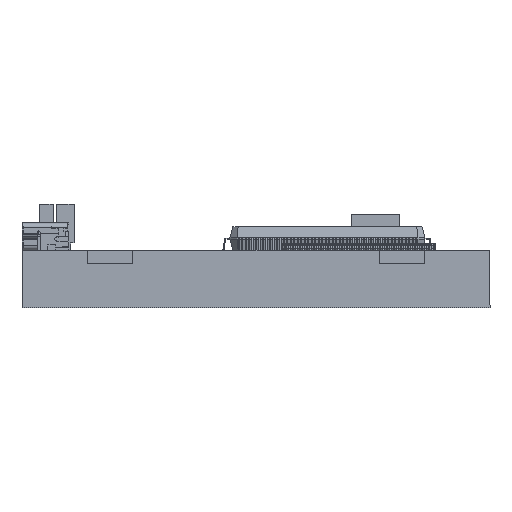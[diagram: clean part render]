
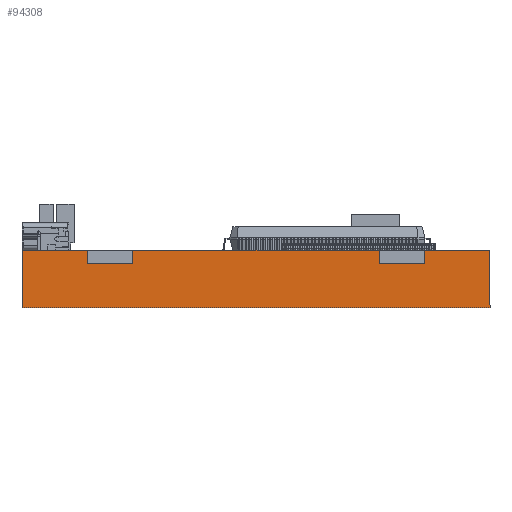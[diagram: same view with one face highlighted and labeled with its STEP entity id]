
A CAD part, left-side view. The second image highlights one B-rep face of the part: STEP entity #94308.
In plain terms, the highlighted planar face has unit normal (-1, 0, 0).
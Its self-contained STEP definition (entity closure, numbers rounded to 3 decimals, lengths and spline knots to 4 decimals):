
#4686=FACE_OUTER_BOUND($,#31430,.T.);
#7232=LINE($,#129969,#17772);
#7233=LINE($,#129971,#17773);
#7239=LINE($,#129980,#17779);
#13289=LINE($,#147716,#23829);
#13301=LINE($,#147749,#23841);
#13313=LINE($,#147776,#23853);
#13314=LINE($,#147778,#23854);
#13316=LINE($,#147781,#23856);
#13319=LINE($,#147786,#23859);
#13325=LINE($,#147800,#23865);
#13328=LINE($,#147805,#23868);
#13329=LINE($,#147806,#23869);
#17772=VECTOR($,#104086,3.535);
#17773=VECTOR($,#104087,0.9375);
#17779=VECTOR($,#104093,0.9375);
#23829=VECTOR($,#119733,0.655);
#23841=VECTOR($,#119757,0.655);
#23853=VECTOR($,#119789,0.19);
#23854=VECTOR($,#119792,0.19);
#23856=VECTOR($,#119796,0.19);
#23859=VECTOR($,#119803,0.19);
#23865=VECTOR($,#119819,6.72);
#23868=VECTOR($,#119824,0.82);
#23869=VECTOR($,#119825,0.82);
#31430=EDGE_LOOP($,(#75650,#75651,#75652,#75653,#75654,#75655,#75656,#75657,
#75658,#75659,#75660,#75661));
#35737=VERTEX_POINT($,#128135);
#35738=VERTEX_POINT($,#128136);
#36652=VERTEX_POINT($,#129966);
#36653=VERTEX_POINT($,#129967);
#36654=VERTEX_POINT($,#129970);
#36657=VERTEX_POINT($,#129978);
#41645=VERTEX_POINT($,#147714);
#41646=VERTEX_POINT($,#147715);
#41660=VERTEX_POINT($,#147747);
#41661=VERTEX_POINT($,#147748);
#41667=VERTEX_POINT($,#147796);
#41669=VERTEX_POINT($,#147799);
#45433=EDGE_CURVE($,#36653,#35737,#7232,.T.);
#45434=EDGE_CURVE($,#35738,#36654,#7233,.T.);
#45440=EDGE_CURVE($,#36657,#36652,#7239,.T.);
#53414=EDGE_CURVE($,#41645,#41646,#13289,.T.);
#53429=EDGE_CURVE($,#41660,#41661,#13301,.T.);
#53442=EDGE_CURVE($,#41660,#36652,#13313,.T.);
#53443=EDGE_CURVE($,#41661,#36653,#13314,.T.);
#53445=EDGE_CURVE($,#41646,#35738,#13316,.T.);
#53448=EDGE_CURVE($,#41645,#35737,#13319,.T.);
#53454=EDGE_CURVE($,#41669,#41667,#13325,.T.);
#53457=EDGE_CURVE($,#41667,#36654,#13328,.T.);
#53458=EDGE_CURVE($,#41669,#36657,#13329,.T.);
#75650=ORIENTED_EDGE($,*,*,#53457,.T.);
#75651=ORIENTED_EDGE($,*,*,#45434,.F.);
#75652=ORIENTED_EDGE($,*,*,#53445,.F.);
#75653=ORIENTED_EDGE($,*,*,#53414,.F.);
#75654=ORIENTED_EDGE($,*,*,#53448,.T.);
#75655=ORIENTED_EDGE($,*,*,#45433,.F.);
#75656=ORIENTED_EDGE($,*,*,#53443,.F.);
#75657=ORIENTED_EDGE($,*,*,#53429,.F.);
#75658=ORIENTED_EDGE($,*,*,#53442,.T.);
#75659=ORIENTED_EDGE($,*,*,#45440,.F.);
#75660=ORIENTED_EDGE($,*,*,#53458,.F.);
#75661=ORIENTED_EDGE($,*,*,#53454,.T.);
#85894=PLANE($,#100763);
#94308=ADVANCED_FACE($,(#4686),#85894,.T.);
#100763=AXIS2_PLACEMENT_3D($,#147804,#119822,#119823);
#104086=DIRECTION($,(0.,-1.,0.));
#104087=DIRECTION($,(0.,-1.,0.));
#104093=DIRECTION($,(0.,-1.,0.));
#119733=DIRECTION($,(0.,-1.,0.));
#119757=DIRECTION($,(0.,-1.,0.));
#119789=DIRECTION($,(0.,0.,1.));
#119792=DIRECTION($,(0.,0.,1.));
#119796=DIRECTION($,(0.,0.,1.));
#119803=DIRECTION($,(0.,0.,1.));
#119819=DIRECTION($,(0.,-1.,0.));
#119822=DIRECTION('center_axis',(-1.,0.,0.));
#119823=DIRECTION('ref_axis',(0.,-1.,0.));
#119824=DIRECTION($,(0.,0.,1.));
#119825=DIRECTION($,(0.,0.,1.));
#128135=CARTESIAN_POINT('',(-6.2082,7.4606,3.8525));
#128136=CARTESIAN_POINT('',(-6.2082,6.8056,3.8525));
#129966=CARTESIAN_POINT('',(-6.2082,11.6506,3.8525));
#129967=CARTESIAN_POINT('',(-6.2082,10.9956,3.8525));
#129969=CARTESIAN_POINT($,(-6.2082,12.5881,3.8525));
#129970=CARTESIAN_POINT('',(-6.2082,5.8681,3.8525));
#129971=CARTESIAN_POINT($,(-6.2082,12.5881,3.8525));
#129978=CARTESIAN_POINT('',(-6.2082,12.5881,3.8525));
#129980=CARTESIAN_POINT($,(-6.2082,12.5881,3.8525));
#147714=CARTESIAN_POINT('',(-6.2082,7.4606,3.6625));
#147715=CARTESIAN_POINT('',(-6.2082,6.8056,3.6625));
#147716=CARTESIAN_POINT($,(-6.2082,11.9556,3.6625));
#147747=CARTESIAN_POINT('',(-6.2082,11.6506,3.6625));
#147748=CARTESIAN_POINT('',(-6.2082,10.9956,3.6625));
#147749=CARTESIAN_POINT($,(-6.2082,11.9556,3.6625));
#147776=CARTESIAN_POINT($,(-6.2082,11.6506,3.6625));
#147778=CARTESIAN_POINT($,(-6.2082,10.9956,3.6625));
#147781=CARTESIAN_POINT($,(-6.2082,6.8056,3.6625));
#147786=CARTESIAN_POINT($,(-6.2082,7.4606,3.6625));
#147796=CARTESIAN_POINT('',(-6.2082,5.8681,3.0325));
#147799=CARTESIAN_POINT('',(-6.2082,12.5881,3.0325));
#147800=CARTESIAN_POINT($,(-6.2082,12.5881,3.0325));
#147804=CARTESIAN_POINT('Origin',(-6.2082,12.5881,3.1375));
#147805=CARTESIAN_POINT($,(-6.2082,5.8681,3.0325));
#147806=CARTESIAN_POINT($,(-6.2082,12.5881,3.1375));
